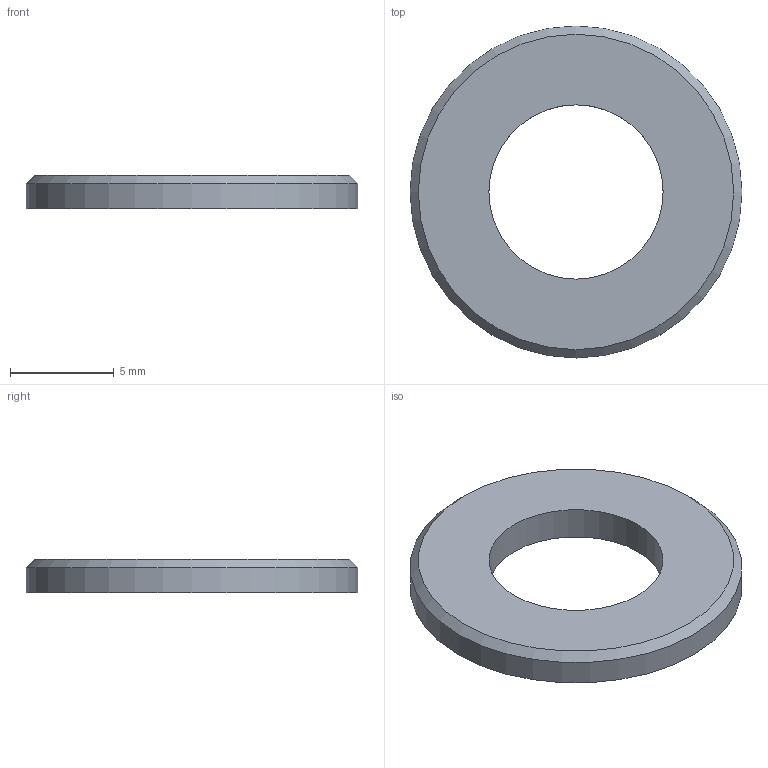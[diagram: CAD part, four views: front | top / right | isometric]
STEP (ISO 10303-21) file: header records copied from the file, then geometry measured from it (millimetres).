
FILE_DESCRIPTION(/* description */ ('STEP AP242 Edition 2','CAx-IF Rec.Pracs.---Representation and Presentation of Product Manufacturing Information (PMI)---4.0---2014-10-13','CAx-IF Rec.Pracs.---3D Tessellated Geometry---0.4---2014-09-14','2;1','CAx-IF Rec.Pracs.---User Defined Attributes---1.5---2016-08-15'),/* implementation_level */ '2;1');
FILE_NAME(/* name */ 'Assy_ForMFG - Chamfered plain washer normal M8 (4)',/* time_stamp */ '2026-05-15T19:56:09Z',/* author */ (''),/* organization */ (''),/* preprocessor_version */ 'ST-DEVELOPER v20',/* originating_system */ 'ONSHAPE BY PTC INC, 1.215',/* authorisation */ ' ');
FILE_SCHEMA (('AP242_MANAGED_MODEL_BASED_3D_ENGINEERING_MIM_LF { 1 0 10303 442 3 1 4 }'));
Length unit declared in the file: metre
Products named in the file (1): Chamfered plain washer normal M8
Bounding box: 16 x 16 x 1.6 mm (x, y, z)
Volume: 229.1 mm3; surface area: 402 mm2
Topology: 1 solids, 1 shells, 5 faces, 8 edges, 5 vertices
Faces by surface type: plane 2, cylinder 2, cone 1
Full cylindrical faces by diameter (mm): 8.4 x1, 16 x1
Entity records: 130 total; most frequent: DIRECTION 22, CARTESIAN_POINT 16, AXIS2_PLACEMENT_3D 11, ORIENTED_EDGE 10, EDGE_LOOP 10, FACE_BOUND 10, EDGE_CURVE 5, VERTEX_POINT 5
